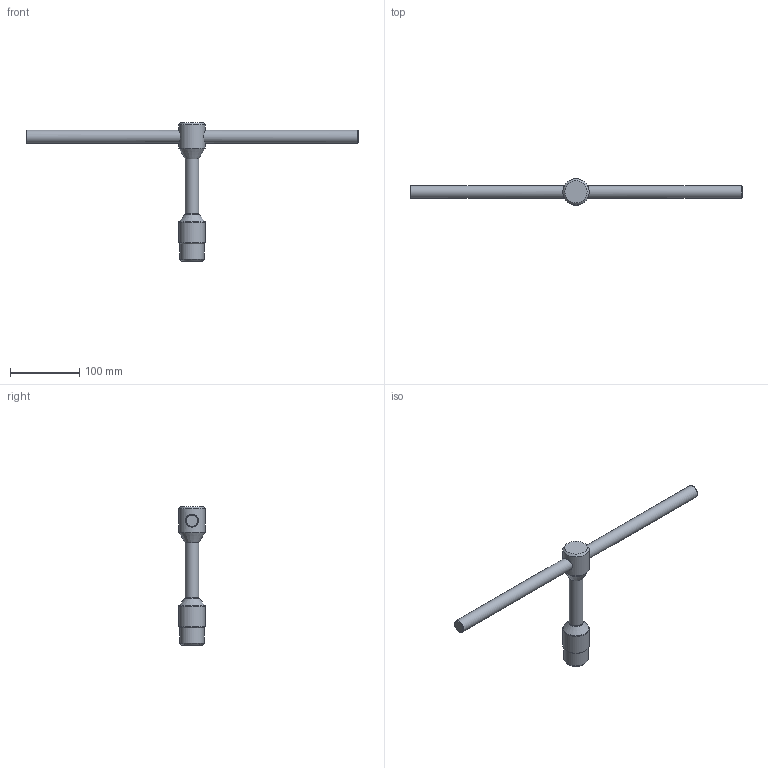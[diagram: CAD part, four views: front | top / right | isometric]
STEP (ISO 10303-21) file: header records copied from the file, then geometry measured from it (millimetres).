
FILE_DESCRIPTION(/* description */ (''),/* implementation_level */ '2;1');
FILE_NAME(/* name */ '\\DC01\Daten\CAD\Standard\Daten\3D-Datenbank\SWS\4 - 3D-CAD-Daten SWS 050-160\SWS160\step-Daten\ZG-VKS160-SW20.stp',/* time_stamp */ '2022-08-16T11:43:36+02:00',/* author */ ('mbecker'),/* organization */ ('GRIP GmbH'),/* preprocessor_version */ 'ST-DEVELOPER v17',/* originating_system */ 'Autodesk Inventor 2018',/* authorisation */ '');
FILE_SCHEMA (('AUTOMOTIVE_DESIGN { 1 0 10303 214 3 1 1 }'));
Length unit declared in the file: millimetre
Products named in the file (1): ZG-52192-SSW20
Bounding box: 480 x 38 x 200 mm (x, y, z)
Volume: 251563.3 mm3; surface area: 48614.7 mm2
Topology: 1 solids, 1 shells, 25 faces, 63 edges, 42 vertices
Faces by surface type: plane 9, cone 7, cylinder 6, torus 3
Full cylindrical faces by diameter (mm): 18.5 x2, 20 x1, 35 x1, 38 x2
Entity records: 869 total; most frequent: CARTESIAN_POINT 199, DIRECTION 144, ORIENTED_EDGE 126, EDGE_CURVE 63, AXIS2_PLACEMENT_3D 59, VERTEX_POINT 42, CIRCLE 33, EDGE_LOOP 27
